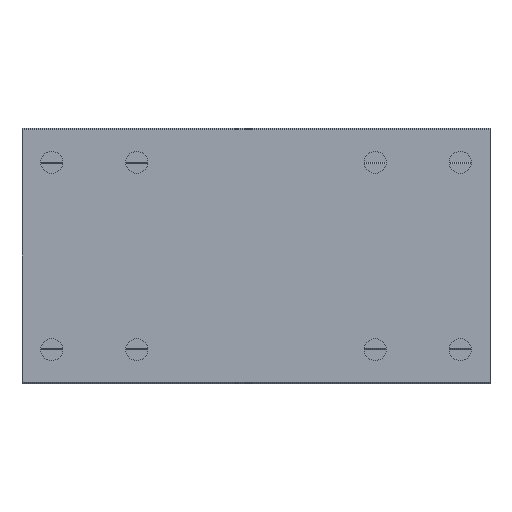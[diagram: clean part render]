
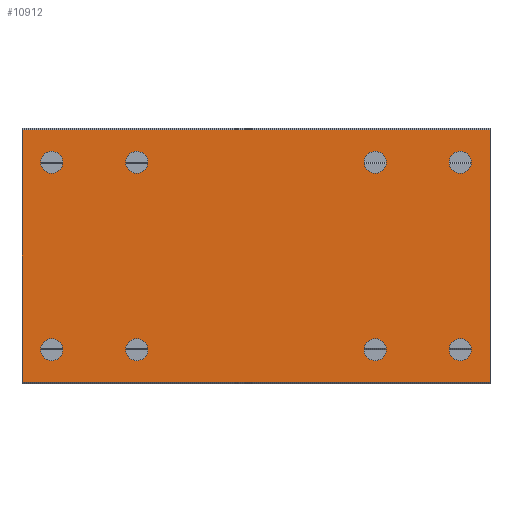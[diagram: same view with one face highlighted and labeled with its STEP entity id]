
A CAD part, front view. The second image highlights one B-rep face of the part: STEP entity #10912.
In plain terms, the highlighted planar face has unit normal (0, -1, 0).
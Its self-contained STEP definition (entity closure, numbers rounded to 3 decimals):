
#362=CIRCLE('',#11560,1.3);
#363=CIRCLE('',#11561,1.3);
#364=CIRCLE('',#11562,1.3);
#365=CIRCLE('',#11563,1.3);
#366=CIRCLE('',#11564,1.3);
#367=CIRCLE('',#11565,1.3);
#368=CIRCLE('',#11566,1.3);
#369=CIRCLE('',#11567,1.3);
#1094=ORIENTED_EDGE('',*,*,#4415,.F.);
#1095=ORIENTED_EDGE('',*,*,#4416,.F.);
#1096=ORIENTED_EDGE('',*,*,#4417,.F.);
#1097=ORIENTED_EDGE('',*,*,#4418,.F.);
#1098=ORIENTED_EDGE('',*,*,#4419,.T.);
#1099=ORIENTED_EDGE('',*,*,#4420,.F.);
#1100=ORIENTED_EDGE('',*,*,#4421,.F.);
#1101=ORIENTED_EDGE('',*,*,#4422,.F.);
#1102=ORIENTED_EDGE('',*,*,#4389,.T.);
#1103=ORIENTED_EDGE('',*,*,#4423,.F.);
#1104=ORIENTED_EDGE('',*,*,#4424,.F.);
#1105=ORIENTED_EDGE('',*,*,#4413,.T.);
#4389=EDGE_CURVE('',#6052,#6051,#7175,.T.);
#4413=EDGE_CURVE('',#6074,#6052,#7199,.T.);
#4415=EDGE_CURVE('',#6075,#6075,#362,.T.);
#4416=EDGE_CURVE('',#6076,#6076,#363,.T.);
#4417=EDGE_CURVE('',#6077,#6077,#364,.T.);
#4418=EDGE_CURVE('',#6078,#6078,#365,.T.);
#4419=EDGE_CURVE('',#6079,#6079,#366,.T.);
#4420=EDGE_CURVE('',#6080,#6080,#367,.T.);
#4421=EDGE_CURVE('',#6081,#6081,#368,.T.);
#4422=EDGE_CURVE('',#6082,#6082,#369,.T.);
#4423=EDGE_CURVE('',#6083,#6051,#7201,.T.);
#4424=EDGE_CURVE('',#6074,#6083,#7202,.T.);
#6051=VERTEX_POINT('',#16496);
#6052=VERTEX_POINT('',#16498);
#6074=VERTEX_POINT('',#16547);
#6075=VERTEX_POINT('',#16551);
#6076=VERTEX_POINT('',#16553);
#6077=VERTEX_POINT('',#16555);
#6078=VERTEX_POINT('',#16557);
#6079=VERTEX_POINT('',#16559);
#6080=VERTEX_POINT('',#16561);
#6081=VERTEX_POINT('',#16563);
#6082=VERTEX_POINT('',#16565);
#6083=VERTEX_POINT('',#16567);
#7175=LINE('',#16497,#8189);
#7199=LINE('',#16546,#8213);
#7201=LINE('',#16566,#8215);
#7202=LINE('',#16568,#8216);
#8189=VECTOR('',#12892,1000.);
#8213=VECTOR('',#12922,1000.);
#8215=VECTOR('',#12942,1000.);
#8216=VECTOR('',#12943,1000.);
#9159=EDGE_LOOP('',(#1094));
#9160=EDGE_LOOP('',(#1095));
#9161=EDGE_LOOP('',(#1096));
#9162=EDGE_LOOP('',(#1097));
#9163=EDGE_LOOP('',(#1098));
#9164=EDGE_LOOP('',(#1099));
#9165=EDGE_LOOP('',(#1100));
#9166=EDGE_LOOP('',(#1101));
#9167=EDGE_LOOP('',(#1102,#1103,#1104,#1105));
#9891=FACE_BOUND('',#9159,.T.);
#9892=FACE_BOUND('',#9160,.T.);
#9893=FACE_BOUND('',#9161,.T.);
#9894=FACE_BOUND('',#9162,.T.);
#9895=FACE_BOUND('',#9163,.T.);
#9896=FACE_BOUND('',#9164,.T.);
#9897=FACE_BOUND('',#9165,.T.);
#9898=FACE_BOUND('',#9166,.T.);
#9899=FACE_BOUND('',#9167,.T.);
#10623=PLANE('',#11559);
#10912=ADVANCED_FACE('',(#9891,#9892,#9893,#9894,#9895,#9896,#9897,#9898,
#9899),#10623,.F.);
#11559=AXIS2_PLACEMENT_3D('',#16549,#12924,#12925);
#11560=AXIS2_PLACEMENT_3D('',#16550,#12926,#12927);
#11561=AXIS2_PLACEMENT_3D('',#16552,#12928,#12929);
#11562=AXIS2_PLACEMENT_3D('',#16554,#12930,#12931);
#11563=AXIS2_PLACEMENT_3D('',#16556,#12932,#12933);
#11564=AXIS2_PLACEMENT_3D('',#16558,#12934,#12935);
#11565=AXIS2_PLACEMENT_3D('',#16560,#12936,#12937);
#11566=AXIS2_PLACEMENT_3D('',#16562,#12938,#12939);
#11567=AXIS2_PLACEMENT_3D('',#16564,#12940,#12941);
#12892=DIRECTION('',(0.,0.,-1.));
#12922=DIRECTION('',(-1.,0.,0.));
#12924=DIRECTION('',(0.,1.,0.));
#12925=DIRECTION('',(0.,0.,1.));
#12926=DIRECTION('',(0.,-1.,0.));
#12927=DIRECTION('',(0.,0.,-1.));
#12928=DIRECTION('',(0.,-1.,0.));
#12929=DIRECTION('',(0.,0.,-1.));
#12930=DIRECTION('',(0.,-1.,0.));
#12931=DIRECTION('',(0.,0.,-1.));
#12932=DIRECTION('',(0.,-1.,0.));
#12933=DIRECTION('',(0.,0.,-1.));
#12934=DIRECTION('',(0.,1.,0.));
#12935=DIRECTION('',(0.,0.,1.));
#12936=DIRECTION('',(0.,-1.,0.));
#12937=DIRECTION('',(0.,0.,-1.));
#12938=DIRECTION('',(0.,-1.,0.));
#12939=DIRECTION('',(0.,0.,-1.));
#12940=DIRECTION('',(0.,-1.,0.));
#12941=DIRECTION('',(0.,0.,-1.));
#12942=DIRECTION('',(-1.,0.,0.));
#12943=DIRECTION('',(0.,0.,-1.));
#16496=CARTESIAN_POINT('',(0.,0.,-14.85));
#16497=CARTESIAN_POINT('',(0.,0.,14.85));
#16498=CARTESIAN_POINT('',(0.,0.,14.85));
#16546=CARTESIAN_POINT('',(55.,0.,14.85));
#16547=CARTESIAN_POINT('',(55.,0.,14.85));
#16549=CARTESIAN_POINT('',(55.,0.,14.85));
#16550=CARTESIAN_POINT('',(41.5,0.,11.));
#16551=CARTESIAN_POINT('',(41.5,0.,9.7));
#16552=CARTESIAN_POINT('',(41.5,0.,-11.));
#16553=CARTESIAN_POINT('',(41.5,0.,-12.3));
#16554=CARTESIAN_POINT('',(13.5,0.,11.));
#16555=CARTESIAN_POINT('',(13.5,0.,9.7));
#16556=CARTESIAN_POINT('',(13.5,0.,-11.));
#16557=CARTESIAN_POINT('',(13.5,0.,-12.3));
#16558=CARTESIAN_POINT('',(51.5,0.,11.));
#16559=CARTESIAN_POINT('',(51.5,0.,12.3));
#16560=CARTESIAN_POINT('',(51.5,0.,-11.));
#16561=CARTESIAN_POINT('',(51.5,0.,-12.3));
#16562=CARTESIAN_POINT('',(3.5,0.,-11.));
#16563=CARTESIAN_POINT('',(3.5,0.,-12.3));
#16564=CARTESIAN_POINT('',(3.5,0.,11.));
#16565=CARTESIAN_POINT('',(3.5,0.,9.7));
#16566=CARTESIAN_POINT('',(55.,0.,-14.85));
#16567=CARTESIAN_POINT('',(55.,0.,-14.85));
#16568=CARTESIAN_POINT('',(55.,0.,14.85));
